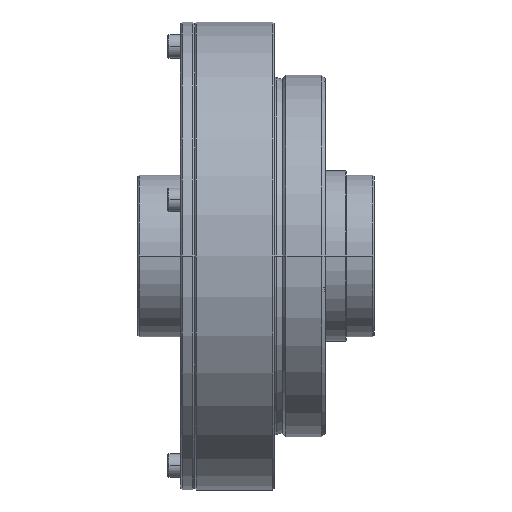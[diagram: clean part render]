
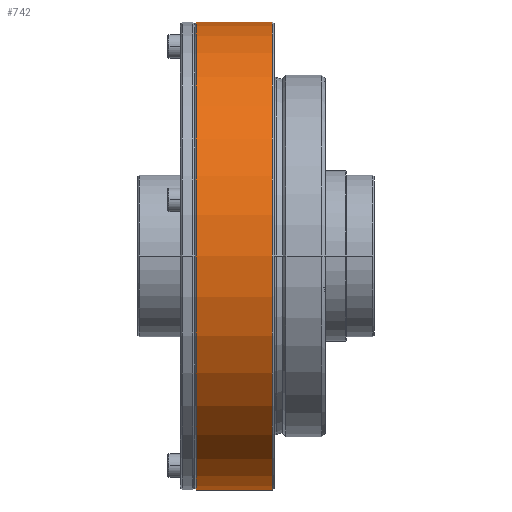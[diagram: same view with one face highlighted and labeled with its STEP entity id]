
A CAD part, front view. The second image highlights one B-rep face of the part: STEP entity #742.
In plain terms, the highlighted cylindrical face has radius 55 mm (diameter 110 mm), a partial arc.
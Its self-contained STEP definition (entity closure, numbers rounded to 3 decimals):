
#742=ADVANCED_FACE('NONE',(#1711),#1712,.T.);
#1711=FACE_OUTER_BOUND('',#3296,.T.);
#1712=CYLINDRICAL_SURFACE('',#3297,55.0);
#3296=EDGE_LOOP('',(#5590,#5591,#5592,#5593));
#3297=AXIS2_PLACEMENT_3D('',#5594,#5595,#5596);
#5590=ORIENTED_EDGE('',*,*,#7796,.F.);
#5591=ORIENTED_EDGE('',*,*,#8414,.T.);
#5592=ORIENTED_EDGE('',*,*,#7798,.T.);
#5593=ORIENTED_EDGE('',*,*,#8415,.T.);
#5594=CARTESIAN_POINT('',(12.65,0.0,0.0));
#5595=DIRECTION('',(-1.0,0.0,0.0));
#5596=DIRECTION('',(0.0,0.0,-1.0));
#7796=EDGE_CURVE('NONE',#9152,#9154,#9155,.T.);
#7798=EDGE_CURVE('NONE',#9151,#9156,#9158,.T.);
#8414=EDGE_CURVE('NONE',#9152,#9151,#10189,.T.);
#8415=EDGE_CURVE('NONE',#9156,#9154,#10190,.T.);
#9151=VERTEX_POINT('NONE',#11552);
#9152=VERTEX_POINT('NONE',#11553);
#9154=VERTEX_POINT('NONE',#11555);
#9155=LINE('',#11556,#11557);
#9156=VERTEX_POINT('NONE',#11558);
#9158=LINE('',#11560,#11561);
#10189=CIRCLE('',#12880,55.0);
#10190=CIRCLE('',#12881,55.0);
#11552=CARTESIAN_POINT('',(3.7,0.0,-55.));
#11553=CARTESIAN_POINT('',(3.7,0.,55.));
#11555=CARTESIAN_POINT('',(21.6,0.0,55.));
#11556=CARTESIAN_POINT('',(12.65,0.,55.0));
#11557=VECTOR('',#14402,1000.0);
#11558=CARTESIAN_POINT('',(21.6,0.,-55.));
#11560=CARTESIAN_POINT('',(12.65,0.0,-55.0));
#11561=VECTOR('',#14406,1000.0);
#12880=AXIS2_PLACEMENT_3D('',#15307,#15308,#15309);
#12881=AXIS2_PLACEMENT_3D('',#15310,#15311,#15312);
#14402=DIRECTION('',(1.0,0.0,0.0));
#14406=DIRECTION('',(1.0,0.0,0.0));
#15307=CARTESIAN_POINT('',(3.7,0.0,0.0));
#15308=DIRECTION('',(1.0,0.0,0.0));
#15309=DIRECTION('',(0.0,0.0,-1.0));
#15310=CARTESIAN_POINT('',(21.6,0.0,0.0));
#15311=DIRECTION('',(-1.0,0.0,0.0));
#15312=DIRECTION('',(0.0,0.0,-1.0));
